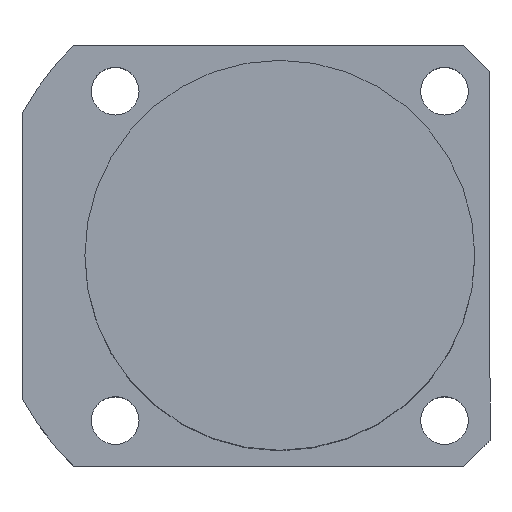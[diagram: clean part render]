
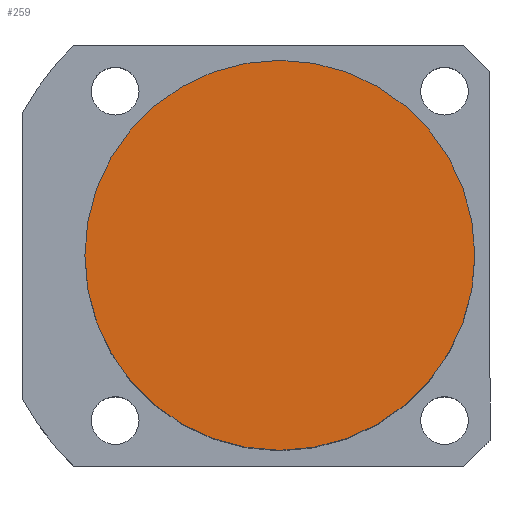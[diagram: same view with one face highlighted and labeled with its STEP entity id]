
A CAD part, top view. The second image highlights one B-rep face of the part: STEP entity #259.
In plain terms, the highlighted planar face has unit normal (0, 0, 1).
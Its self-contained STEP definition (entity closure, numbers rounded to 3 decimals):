
#70 = VERTEX_POINT ( 'NONE', #1156 ) ;
#259 = ADVANCED_FACE ( 'NONE', ( #1436 ), #1381, .T. ) ;
#272 = CARTESIAN_POINT ( 'NONE',  ( 0., 0., 89.5 ) ) ;
#280 = CIRCLE ( 'NONE', #500, 45. ) ;
#368 = CIRCLE ( 'NONE', #1342, 45. ) ;
#430 = DIRECTION ( 'NONE',  ( 1., 0., 0. ) ) ;
#500 = AXIS2_PLACEMENT_3D ( 'NONE', #272, #1310, #430 ) ;
#558 = EDGE_CURVE ( 'NONE', #70, #929, #280, .T. ) ;
#622 = CARTESIAN_POINT ( 'NONE',  ( 0., 0., 89.5 ) ) ;
#696 = ORIENTED_EDGE ( 'NONE', *, *, #558, .T. ) ;
#728 = EDGE_LOOP ( 'NONE', ( #696, #857 ) ) ;
#748 = DIRECTION ( 'NONE',  ( 0., 0., 1. ) ) ;
#810 = CARTESIAN_POINT ( 'NONE',  ( 45., 0., 89.5 ) ) ;
#857 = ORIENTED_EDGE ( 'NONE', *, *, #1075, .T. ) ;
#875 = CARTESIAN_POINT ( 'NONE',  ( 0., 0., 89.5 ) ) ;
#921 = DIRECTION ( 'NONE',  ( 0., 0., 1. ) ) ;
#929 = VERTEX_POINT ( 'NONE', #810 ) ;
#1075 = EDGE_CURVE ( 'NONE', #929, #70, #368, .T. ) ;
#1134 = AXIS2_PLACEMENT_3D ( 'NONE', #622, #921, #1815 ) ;
#1156 = CARTESIAN_POINT ( 'NONE',  ( -45., 0., 89.5 ) ) ;
#1310 = DIRECTION ( 'NONE',  ( 0., 0., 1. ) ) ;
#1342 = AXIS2_PLACEMENT_3D ( 'NONE', #875, #748, #1797 ) ;
#1381 = PLANE ( 'NONE',  #1134 ) ;
#1436 = FACE_OUTER_BOUND ( 'NONE', #728, .T. ) ;
#1797 = DIRECTION ( 'NONE',  ( 1., 0., 0. ) ) ;
#1815 = DIRECTION ( 'NONE',  ( 1., 0., 0. ) ) ;
